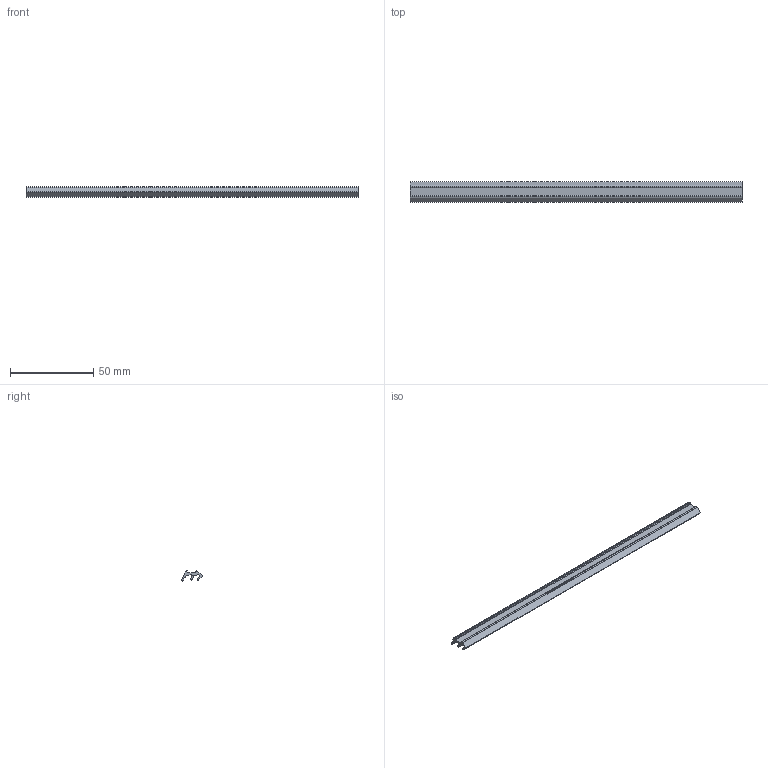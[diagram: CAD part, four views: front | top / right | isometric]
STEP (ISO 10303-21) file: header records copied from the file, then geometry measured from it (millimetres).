
FILE_DESCRIPTION (( 'STEP AP214' ), '1' );
FILE_NAME ('1.6021 Paneelitiiviste 5.STEP', '2024-03-13T12:33:49', ( '' ), ( '' ), 'SwSTEP 2.0', 'SolidWorks 2024', '' );
FILE_SCHEMA (( 'AUTOMOTIVE_DESIGN' ));
Length unit declared in the file: millimetre
Products named in the file (1): 1.6021 Paneelitiiviste 5
Bounding box: 200 x 12.4 x 6.1 mm (x, y, z)
Volume: 5392.8 mm3; surface area: 9125.1 mm2
Topology: 1 solids, 1 shells, 35 faces, 99 edges, 66 vertices
Faces by surface type: plane 18, cylinder 17
Entity records: 1555 total; most frequent: DIRECTION 205, CARTESIAN_POINT 201, ORIENTED_EDGE 198, EDGE_CURVE 99, AXIS2_PLACEMENT_3D 70, VERTEX_POINT 66, VECTOR 65, LINE 65
